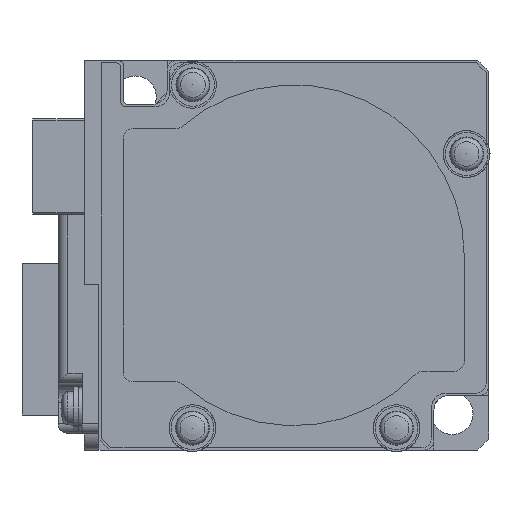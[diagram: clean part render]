
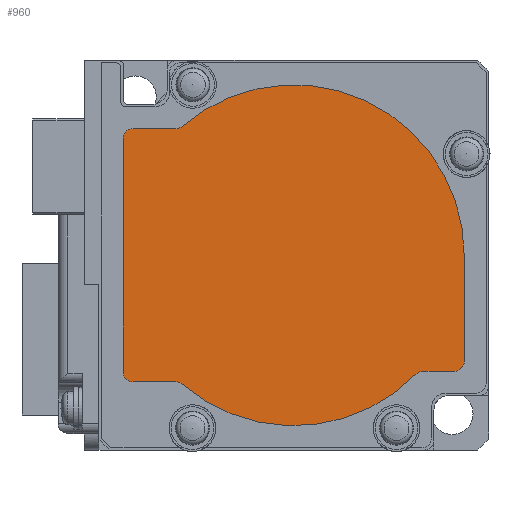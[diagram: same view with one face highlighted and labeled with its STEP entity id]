
A CAD part, left-side view. The second image highlights one B-rep face of the part: STEP entity #960.
In plain terms, the highlighted planar face has unit normal (-1, 0, 0).
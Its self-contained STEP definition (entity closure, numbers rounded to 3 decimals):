
#960 = ADVANCED_FACE( '', ( #2283 ), #2284, .F. );
#2283 = FACE_OUTER_BOUND( '', #4014, .T. );
#2284 = PLANE( '', #4015 );
#4014 = EDGE_LOOP( '', ( #6766, #6767, #6768, #6769, #6770, #6771, #6772, #6773, #6774, #6775, #6776, #6777, #6778 ) );
#4015 = AXIS2_PLACEMENT_3D( '', #6779, #6780, #6781 );
#6766 = ORIENTED_EDGE( '', *, *, #9850, .F. );
#6767 = ORIENTED_EDGE( '', *, *, #10492, .F. );
#6768 = ORIENTED_EDGE( '', *, *, #10493, .T. );
#6769 = ORIENTED_EDGE( '', *, *, #10494, .F. );
#6770 = ORIENTED_EDGE( '', *, *, #10495, .F. );
#6771 = ORIENTED_EDGE( '', *, *, #9604, .F. );
#6772 = ORIENTED_EDGE( '', *, *, #10496, .F. );
#6773 = ORIENTED_EDGE( '', *, *, #10497, .F. );
#6774 = ORIENTED_EDGE( '', *, *, #10498, .T. );
#6775 = ORIENTED_EDGE( '', *, *, #10205, .F. );
#6776 = ORIENTED_EDGE( '', *, *, #10499, .T. );
#6777 = ORIENTED_EDGE( '', *, *, #10500, .F. );
#6778 = ORIENTED_EDGE( '', *, *, #10501, .F. );
#6779 = CARTESIAN_POINT( '', ( -91.4, 0., 0. ) );
#6780 = DIRECTION( '', ( 1., 0., 0. ) );
#6781 = DIRECTION( '', ( 0., 0., -1. ) );
#9604 = EDGE_CURVE( '', #11361, #11362, #11363, .T. );
#9850 = EDGE_CURVE( '', #11797, #11798, #11799, .T. );
#10205 = EDGE_CURVE( '', #12376, #12377, #12378, .T. );
#10492 = EDGE_CURVE( '', #12809, #11797, #12810, .T. );
#10493 = EDGE_CURVE( '', #12809, #12811, #12812, .T. );
#10494 = EDGE_CURVE( '', #12813, #12811, #12814, .T. );
#10495 = EDGE_CURVE( '', #11362, #12813, #12815, .T. );
#10496 = EDGE_CURVE( '', #12816, #11361, #12817, .T. );
#10497 = EDGE_CURVE( '', #12818, #12816, #12819, .T. );
#10498 = EDGE_CURVE( '', #12818, #12377, #12820, .T. );
#10499 = EDGE_CURVE( '', #12376, #12821, #12822, .T. );
#10500 = EDGE_CURVE( '', #12823, #12821, #12824, .T. );
#10501 = EDGE_CURVE( '', #11798, #12823, #12825, .T. );
#11361 = VERTEX_POINT( '', #13907 );
#11362 = VERTEX_POINT( '', #13908 );
#11363 = LINE( '', #13909, #13910 );
#11797 = VERTEX_POINT( '', #14514 );
#11798 = VERTEX_POINT( '', #14515 );
#11799 = LINE( '', #14516, #14517 );
#12376 = VERTEX_POINT( '', #15332 );
#12377 = VERTEX_POINT( '', #15333 );
#12378 = CIRCLE( '', #15334, 17.5 );
#12809 = VERTEX_POINT( '', #15920 );
#12810 = CIRCLE( '', #15921, 17.5 );
#12811 = VERTEX_POINT( '', #15922 );
#12812 = CIRCLE( '', #15923, 1. );
#12813 = VERTEX_POINT( '', #15924 );
#12814 = LINE( '', #15925, #15926 );
#12815 = CIRCLE( '', #15927, 1. );
#12816 = VERTEX_POINT( '', #15928 );
#12817 = CIRCLE( '', #15929, 1. );
#12818 = VERTEX_POINT( '', #15930 );
#12819 = LINE( '', #15931, #15932 );
#12820 = CIRCLE( '', #15933, 1. );
#12821 = VERTEX_POINT( '', #15934 );
#12822 = CIRCLE( '', #15935, 1. );
#12823 = VERTEX_POINT( '', #15936 );
#12824 = LINE( '', #15937, #15938 );
#12825 = CIRCLE( '', #15939, 1. );
#13907 = CARTESIAN_POINT( '', ( -91.4, 17.5, -12. ) );
#13908 = CARTESIAN_POINT( '', ( -91.4, 17.5, 12. ) );
#13909 = CARTESIAN_POINT( '', ( -91.4, 17.5, -12. ) );
#13910 = VECTOR( '', #17394, 1000. );
#14514 = CARTESIAN_POINT( '', ( -91.4, -17.5, 0. ) );
#14515 = CARTESIAN_POINT( '', ( -91.4, -17.5, -10.9 ) );
#14516 = CARTESIAN_POINT( '', ( -91.4, -17.5, 0. ) );
#14517 = VECTOR( '', #17658, 1000. );
#15332 = CARTESIAN_POINT( '', ( -91.4, -12.544, -12.203 ) );
#15333 = CARTESIAN_POINT( '', ( -91.4, 11.44, -13.243 ) );
#15334 = AXIS2_PLACEMENT_3D( '', #18046, #18047, #18048 );
#15920 = CARTESIAN_POINT( '', ( -91.4, 11.44, 13.243 ) );
#15921 = AXIS2_PLACEMENT_3D( '', #18384, #18385, #18386 );
#15922 = CARTESIAN_POINT( '', ( -91.4, 12.093, 13. ) );
#15923 = AXIS2_PLACEMENT_3D( '', #18387, #18388, #18389 );
#15924 = CARTESIAN_POINT( '', ( -91.4, 16.5, 13. ) );
#15925 = CARTESIAN_POINT( '', ( -91.4, 16.5, 13. ) );
#15926 = VECTOR( '', #18390, 1000. );
#15927 = AXIS2_PLACEMENT_3D( '', #18391, #18392, #18393 );
#15928 = CARTESIAN_POINT( '', ( -91.4, 16.5, -13. ) );
#15929 = AXIS2_PLACEMENT_3D( '', #18394, #18395, #18396 );
#15930 = CARTESIAN_POINT( '', ( -91.4, 12.093, -13. ) );
#15931 = CARTESIAN_POINT( '', ( -91.4, 12.093, -13. ) );
#15932 = VECTOR( '', #18397, 1000. );
#15933 = AXIS2_PLACEMENT_3D( '', #18398, #18399, #18400 );
#15934 = CARTESIAN_POINT( '', ( -91.4, -13.26, -11.9 ) );
#15935 = AXIS2_PLACEMENT_3D( '', #18401, #18402, #18403 );
#15936 = CARTESIAN_POINT( '', ( -91.4, -16.5, -11.9 ) );
#15937 = CARTESIAN_POINT( '', ( -91.4, -16.5, -11.9 ) );
#15938 = VECTOR( '', #18404, 1000. );
#15939 = AXIS2_PLACEMENT_3D( '', #18405, #18406, #18407 );
#17394 = DIRECTION( '', ( 0., 0., 1. ) );
#17658 = DIRECTION( '', ( 0., 0., -1. ) );
#18046 = CARTESIAN_POINT( '', ( -91.4, 0., 0. ) );
#18047 = DIRECTION( '', ( 1., 0., 0. ) );
#18048 = DIRECTION( '', ( 0., 0., -1. ) );
#18384 = CARTESIAN_POINT( '', ( -91.4, 0., 0. ) );
#18385 = DIRECTION( '', ( 1., 0., 0. ) );
#18386 = DIRECTION( '', ( 0., 0., -1. ) );
#18387 = CARTESIAN_POINT( '', ( -91.4, 12.093, 14. ) );
#18388 = DIRECTION( '', ( 1., 0., 0. ) );
#18389 = DIRECTION( '', ( 0., 0., -1. ) );
#18390 = DIRECTION( '', ( 0., -1., 0. ) );
#18391 = CARTESIAN_POINT( '', ( -91.4, 16.5, 12. ) );
#18392 = DIRECTION( '', ( 1., 0., 0. ) );
#18393 = DIRECTION( '', ( 0., 0., -1. ) );
#18394 = CARTESIAN_POINT( '', ( -91.4, 16.5, -12. ) );
#18395 = DIRECTION( '', ( 1., 0., 0. ) );
#18396 = DIRECTION( '', ( 0., 0., -1. ) );
#18397 = DIRECTION( '', ( 0., 1., 0. ) );
#18398 = CARTESIAN_POINT( '', ( -91.4, 12.093, -14. ) );
#18399 = DIRECTION( '', ( 1., 0., 0. ) );
#18400 = DIRECTION( '', ( 0., 0., -1. ) );
#18401 = CARTESIAN_POINT( '', ( -91.4, -13.26, -12.9 ) );
#18402 = DIRECTION( '', ( 1., 0., 0. ) );
#18403 = DIRECTION( '', ( 0., 0., -1. ) );
#18404 = DIRECTION( '', ( 0., 1., 0. ) );
#18405 = CARTESIAN_POINT( '', ( -91.4, -16.5, -10.9 ) );
#18406 = DIRECTION( '', ( 1., 0., 0. ) );
#18407 = DIRECTION( '', ( 0., 0., -1. ) );
